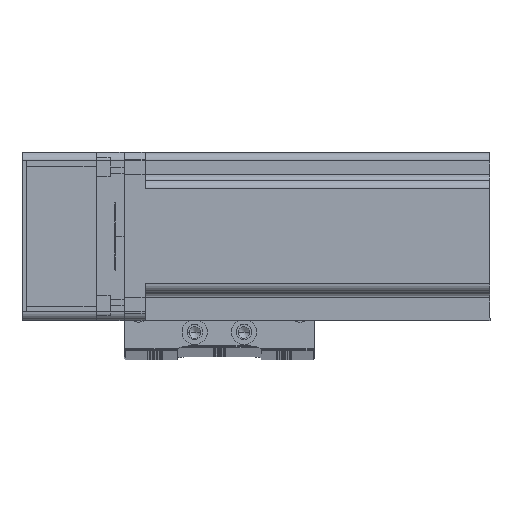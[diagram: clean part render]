
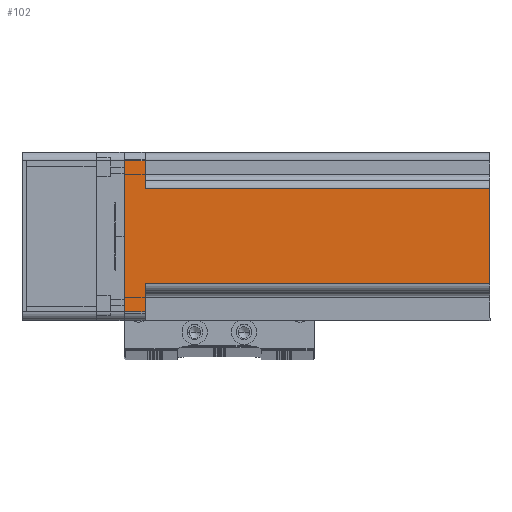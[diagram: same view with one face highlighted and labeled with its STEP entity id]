
A CAD part, top view. The second image highlights one B-rep face of the part: STEP entity #102.
In plain terms, the highlighted planar face has unit normal (0, 0, 1) as drawn and (0, 1, 0) by its records, which use the part's own axes.
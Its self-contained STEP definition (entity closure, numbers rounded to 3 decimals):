
#102 = ADVANCED_FACE ( 'NONE', ( #34735 ), #30897, .F. ) ;
#1037 = DIRECTION ( 'NONE',  ( -1., 0., 0. ) ) ;
#3997 = EDGE_CURVE ( 'NONE', #40597, #34315, #44580, .T. ) ;
#4809 = ORIENTED_EDGE ( 'NONE', *, *, #47144, .T. ) ;
#4840 = DIRECTION ( 'NONE',  ( 0., 0., 1. ) ) ;
#6468 = CARTESIAN_POINT ( 'NONE',  ( -17., 30., 130.7 ) ) ;
#8227 = CARTESIAN_POINT ( 'NONE',  ( 27., 30., 130.7 ) ) ;
#9592 = EDGE_CURVE ( 'NONE', #40597, #50825, #20957, .T. ) ;
#10114 = EDGE_CURVE ( 'NONE', #40091, #19317, #41246, .T. ) ;
#13193 = CARTESIAN_POINT ( 'NONE',  ( -20., 30., 7.5 ) ) ;
#15317 = CARTESIAN_POINT ( 'NONE',  ( 30., 30., 0. ) ) ;
#15345 = CARTESIAN_POINT ( 'NONE',  ( -17., 30., 130.7 ) ) ;
#18489 = CARTESIAN_POINT ( 'NONE',  ( 30., 30., 130.7 ) ) ;
#18834 = ORIENTED_EDGE ( 'NONE', *, *, #10114, .T. ) ;
#19317 = VERTEX_POINT ( 'NONE', #28066 ) ;
#20001 = ORIENTED_EDGE ( 'NONE', *, *, #9592, .F. ) ;
#20578 = CARTESIAN_POINT ( 'NONE',  ( -27., 30., 7.5 ) ) ;
#20957 = LINE ( 'NONE', #18489, #45337 ) ;
#21723 = CARTESIAN_POINT ( 'NONE',  ( 20., 30., 7.5 ) ) ;
#22209 = VECTOR ( 'NONE', #1037, 1000. ) ;
#22279 = DIRECTION ( 'NONE',  ( 0., 0., 1. ) ) ;
#22911 = VERTEX_POINT ( 'NONE', #39617 ) ;
#24143 = VERTEX_POINT ( 'NONE', #52385 ) ;
#24194 = LINE ( 'NONE', #8227, #36415 ) ;
#26120 = ORIENTED_EDGE ( 'NONE', *, *, #52548, .T. ) ;
#27494 = CARTESIAN_POINT ( 'NONE',  ( -27., 30., 130.7 ) ) ;
#28066 = CARTESIAN_POINT ( 'NONE',  ( -17., 30., 7.5 ) ) ;
#28196 = ORIENTED_EDGE ( 'NONE', *, *, #3997, .T. ) ;
#28913 = AXIS2_PLACEMENT_3D ( 'NONE', #32441, #32216, #32071 ) ;
#29966 = VECTOR ( 'NONE', #22279, 1000. ) ;
#30786 = VECTOR ( 'NONE', #39038, 1000. ) ;
#30897 = PLANE ( 'NONE',  #28913 ) ;
#31142 = EDGE_CURVE ( 'NONE', #24143, #40091, #31641, .T. ) ;
#31641 = LINE ( 'NONE', #27494, #29966 ) ;
#32071 = DIRECTION ( 'NONE',  ( 1., 0., 0. ) ) ;
#32216 = DIRECTION ( 'NONE',  ( 0., -1., 0. ) ) ;
#32441 = CARTESIAN_POINT ( 'NONE',  ( 30., 30., 130.7 ) ) ;
#34315 = VERTEX_POINT ( 'NONE', #59336 ) ;
#34735 = FACE_OUTER_BOUND ( 'NONE', #40827, .T. ) ;
#36041 = LINE ( 'NONE', #21723, #22209 ) ;
#36415 = VECTOR ( 'NONE', #44550, 1000. ) ;
#38590 = EDGE_CURVE ( 'NONE', #22911, #34315, #36041, .T. ) ;
#39038 = DIRECTION ( 'NONE',  ( 0., 0., -1. ) ) ;
#39044 = DIRECTION ( 'NONE',  ( 1., 0., 0. ) ) ;
#39617 = CARTESIAN_POINT ( 'NONE',  ( 27., 30., 7.5 ) ) ;
#40091 = VERTEX_POINT ( 'NONE', #20578 ) ;
#40597 = VERTEX_POINT ( 'NONE', #41419 ) ;
#40827 = EDGE_LOOP ( 'NONE', ( #18834, #53796, #20001, #28196, #43327, #26120, #4809, #66014 ) ) ;
#41021 = LINE ( 'NONE', #15345, #51570 ) ;
#41246 = LINE ( 'NONE', #13193, #53405 ) ;
#41419 = CARTESIAN_POINT ( 'NONE',  ( 17., 30., 130.7 ) ) ;
#43327 = ORIENTED_EDGE ( 'NONE', *, *, #38590, .F. ) ;
#43363 = EDGE_CURVE ( 'NONE', #19317, #50825, #41021, .T. ) ;
#44550 = DIRECTION ( 'NONE',  ( 0., 0., -1. ) ) ;
#44580 = LINE ( 'NONE', #66674, #30786 ) ;
#45337 = VECTOR ( 'NONE', #65192, 1000. ) ;
#46158 = VECTOR ( 'NONE', #46340, 1000. ) ;
#46340 = DIRECTION ( 'NONE',  ( -1., 0., 0. ) ) ;
#47144 = EDGE_CURVE ( 'NONE', #64410, #24143, #59940, .T. ) ;
#50486 = CARTESIAN_POINT ( 'NONE',  ( 27., 30., 0. ) ) ;
#50825 = VERTEX_POINT ( 'NONE', #6468 ) ;
#51570 = VECTOR ( 'NONE', #4840, 1000. ) ;
#52385 = CARTESIAN_POINT ( 'NONE',  ( -27., 30., 0. ) ) ;
#52548 = EDGE_CURVE ( 'NONE', #22911, #64410, #24194, .T. ) ;
#53405 = VECTOR ( 'NONE', #39044, 1000. ) ;
#53796 = ORIENTED_EDGE ( 'NONE', *, *, #43363, .T. ) ;
#59336 = CARTESIAN_POINT ( 'NONE',  ( 17., 30., 7.5 ) ) ;
#59940 = LINE ( 'NONE', #15317, #46158 ) ;
#64410 = VERTEX_POINT ( 'NONE', #50486 ) ;
#65192 = DIRECTION ( 'NONE',  ( -1., 0., 0. ) ) ;
#66014 = ORIENTED_EDGE ( 'NONE', *, *, #31142, .T. ) ;
#66674 = CARTESIAN_POINT ( 'NONE',  ( 17., 30., 130.7 ) ) ;
